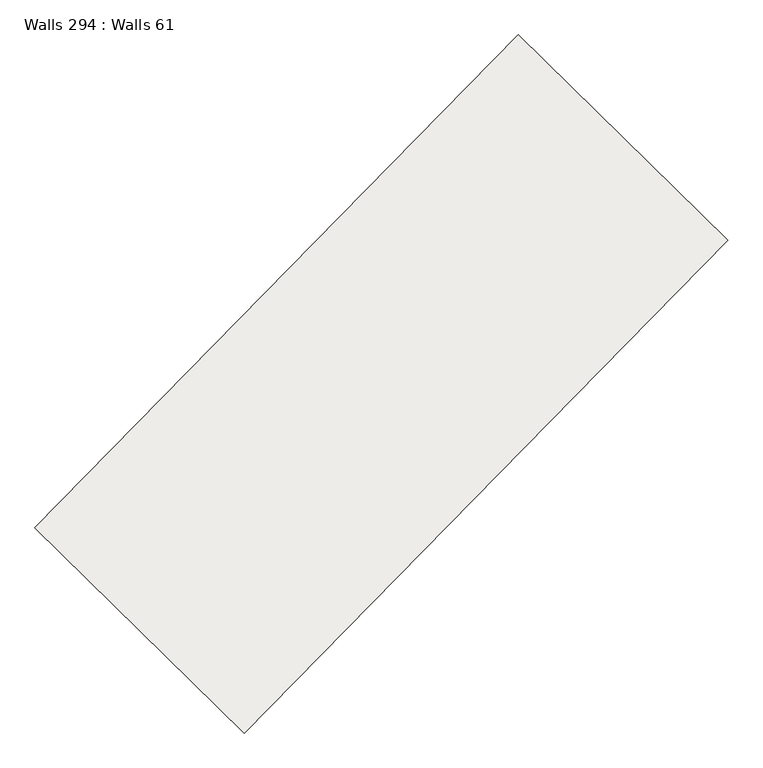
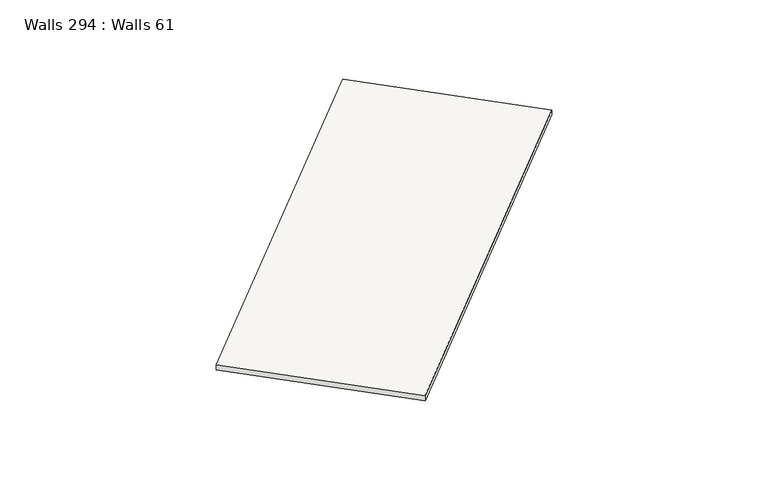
"""IFC4 building model written with IfcOpenShell, lengths in millimetres: slab geometry, Walls 294 : Walls 61."""

import ifcopenshell
import ifcopenshell.guid

model = None  # the IFC model being written
_history = None  # IfcOwnerHistory: only IFC2X3 demands one
_inside = {}  # id of a spatial element -> (the spatial element, [elements in it])
_under = {}  # id of a project, library or spatial element -> (it, [spatial elements below it])
_declared = {}  # id of a project -> (the project, [libraries it declares])
_typed = {}  # id of a type object -> (the type object, [elements of that type])
_made_of = {}  # id of a material, layer set ... -> (it, [elements and type objects made of it])


def new_model(schema):
    """Start an empty IFC model of exactly this schema.

    Asked for "IFC4X3", IfcOpenShell would pick the latest addendum, in which some entities
    have other attributes; the version numbers below select the first issue.
    IFC2X3 requires an IfcOwnerHistory on every rooted entity: one is made here for all.
    """
    global model, _history
    if schema == "IFC4X3":
        model = ifcopenshell.file(schema_version=(4, 3, 0, 0))
    else:
        model = ifcopenshell.file(schema=schema)
    _inside.clear()
    _under.clear()
    _declared.clear()
    _typed.clear()
    _made_of.clear()
    _history = None
    if model.schema == "IFC2X3":
        org = make("IfcOrganization", Name="unknown")
        user = make(
            "IfcPersonAndOrganization",
            ThePerson=make("IfcPerson", FamilyName="unknown"),
            TheOrganization=org,
        )
        app = make(
            "IfcApplication",
            ApplicationDeveloper=org,
            Version="unknown",
            ApplicationFullName="unknown",
            ApplicationIdentifier="unknown",
        )
        _history = make(
            "IfcOwnerHistory",
            OwningUser=user,
            OwningApplication=app,
            ChangeAction="ADDED",
            CreationDate=0,
        )
    return model


def make(cls, **values):
    """One entity of the class cls with the attributes given. An attribute that is None is left unset."""
    return model.create_entity(
        cls, **{name: value for name, value in values.items() if value is not None}
    )


def rooted(cls, **values):
    """An entity with a GlobalId (a new one), such as an element, a storey or a relation."""
    return make(cls, GlobalId=ifcopenshell.guid.new(), OwnerHistory=_history, **values)


def si_unit(unit_type, name, prefix=None):
    """IfcSIUnit, for example si_unit("LENGTHUNIT", "METRE", prefix="MILLI")."""
    return make("IfcSIUnit", UnitType=unit_type, Prefix=prefix, Name=name)


def assignment(units):
    """IfcUnitAssignment: the units of a project."""
    return None if units is None else make("IfcUnitAssignment", Units=units)


def point(xyz):
    """IfcCartesianPoint."""
    return None if xyz is None else make("IfcCartesianPoint", Coordinates=xyz)


def direction(xyz):
    """IfcDirection."""
    return None if xyz is None else make("IfcDirection", DirectionRatios=xyz)


def frame(location, z_axis=None, x_axis=None):
    """IfcAxis2Placement3D, a coordinate frame: its origin and axes. An axis left out is left unset."""
    return make(
        "IfcAxis2Placement3D",
        Location=point(location),
        Axis=direction(z_axis),
        RefDirection=direction(x_axis),
    )


def origin():
    """The frame at (0, 0, 0) with its axes left unset."""
    return frame((0.0, 0.0, 0.0))


def place(relative_to, where):
    """IfcLocalPlacement: puts the frame where relative to a parent placement (None: the world)."""
    return make(
        "IfcLocalPlacement", PlacementRelTo=relative_to, RelativePlacement=where
    )


def context(
    kind, dimensions, precision=None, world=None, true_north=None, identifier=None
):
    """IfcGeometricRepresentationContext, for example the 3D "Model" context."""
    return make(
        "IfcGeometricRepresentationContext",
        ContextIdentifier=identifier,
        ContextType=kind,
        CoordinateSpaceDimension=dimensions,
        Precision=precision,
        WorldCoordinateSystem=world,
        TrueNorth=true_north,
    )


def project(units=None, contexts=None):
    """IfcProject with its units and contexts."""
    return rooted(
        "IfcProject",
        Name="project",
        RepresentationContexts=contexts,
        UnitsInContext=assignment(units),
    )


def spatial(cls, under=None, at=None, **own):
    """A site, building, storey or space (cls), placed at a placement, below another one or the project."""
    s = rooted(cls, ObjectPlacement=at, **own)
    if under is not None:
        _under.setdefault(under.id(), (under, []))[1].append(s)
    return s


def polyline(points):
    """IfcPolyline through the points."""
    return make("IfcPolyline", Points=[point(p) for p in points])


def outline(outer, holes=None, kind="AREA"):
    """IfcArbitraryClosedProfileDef: a profile drawn as a closed curve; with holes, ...WithVoids."""
    if holes is None:
        return make("IfcArbitraryClosedProfileDef", ProfileType=kind, OuterCurve=outer)
    return make(
        "IfcArbitraryProfileDefWithVoids",
        ProfileType=kind,
        OuterCurve=outer,
        InnerCurves=holes,
    )


def extrude(swept, where, along, depth):
    """IfcExtrudedAreaSolid: the profile swept, set in the frame where, extruded along a direction by depth."""
    return make(
        "IfcExtrudedAreaSolid",
        SweptArea=swept,
        Position=where,
        ExtrudedDirection=direction(along),
        Depth=depth,
    )


def shape(context_of_items, identifier, shape_type, items):
    """IfcShapeRepresentation: the items that make up one representation, for example the "Body"."""
    return make(
        "IfcShapeRepresentation",
        ContextOfItems=context_of_items,
        RepresentationIdentifier=identifier,
        RepresentationType=shape_type,
        Items=items,
    )


def source(mapping_origin, context_of_items, identifier, shape_type, items):
    """IfcRepresentationMap: a shape defined once, which mapped items show again and again."""
    return make(
        "IfcRepresentationMap",
        MappingOrigin=mapping_origin,
        MappedRepresentation=shape(context_of_items, identifier, shape_type, items),
    )


def transform(
    local_origin,
    x_axis=None,
    y_axis=None,
    z_axis=None,
    scale=None,
    scale2=None,
    scale3=None,
    uniform=True,
):
    """IfcCartesianTransformationOperator3D, or its non-uniform kind. x_axis, y_axis, z_axis: its Axis1, 2, 3."""
    if uniform:
        return make(
            "IfcCartesianTransformationOperator3D",
            Axis1=direction(x_axis),
            Axis2=direction(y_axis),
            LocalOrigin=point(local_origin),
            Scale=scale,
            Axis3=direction(z_axis),
        )
    return make(
        "IfcCartesianTransformationOperator3DnonUniform",
        Axis1=direction(x_axis),
        Axis2=direction(y_axis),
        LocalOrigin=point(local_origin),
        Scale=scale,
        Axis3=direction(z_axis),
        Scale2=scale2,
        Scale3=scale3,
    )


def mapped(mapping_source, mapping_target):
    """IfcMappedItem: shows the shape of a source again, moved by a transform."""
    return make(
        "IfcMappedItem", MappingSource=mapping_source, MappingTarget=mapping_target
    )


def made_of(thing, what):
    """Note that an element or type object is made of a material, layer set ...; save() writes the relation."""
    if what is not None:
        _made_of.setdefault(what.id(), (what, []))[1].append(thing)
    return thing


def element(
    cls,
    number,
    at=None,
    inside=None,
    cuts=None,
    type_object=None,
    material=None,
    context=None,
    identifier="Body",
    shape_type=None,
    held_by="IfcProductDefinitionShape",
    body=None,
    shapes=None,
    **own,
):
    """One element of the class cls, such as IfcWall. Its Tag is "e" and its number.

    at: its placement. inside: the storey or other place that contains it. cuts: it is an
    opening in that element (IfcRelVoidsElement). A single representation is given by context,
    identifier, shape_type and body (its items); several are given by shapes. held_by: the class
    of the entity that holds the representations. save() writes the other relations.
    """
    e = rooted(cls, Tag="e%d" % number, ObjectPlacement=at, **own)
    if body is not None:
        shapes = [shape(context, identifier, shape_type, body)]
    if shapes is not None:
        e.Representation = make(held_by, Representations=shapes)
    if inside is not None:
        _inside.setdefault(inside.id(), (inside, []))[1].append(e)
    if cuts is not None:
        rooted(
            "IfcRelVoidsElement", RelatingBuildingElement=cuts, RelatedOpeningElement=e
        )
    if type_object is not None:
        _typed.setdefault(type_object.id(), (type_object, []))[1].append(e)
    return made_of(e, material)


def aggregate(whole, parts):
    """IfcRelAggregates: a whole, such as a stair, and the parts it consists of."""
    return rooted("IfcRelAggregates", RelatingObject=whole, RelatedObjects=parts)


def save(model, path):
    """Write the relations noted so far, then the file.

    IfcRelAggregates (storeys below a building ...), IfcRelContainedInSpatialStructure (elements
    in a storey), IfcRelDefinesByType, IfcRelAssociatesMaterial and IfcRelDeclares: one each for
    every whole, place, type object, material and project.
    """
    for whole, parts in _under.values():
        aggregate(whole, parts)
    for where, things in _inside.values():
        rooted(
            "IfcRelContainedInSpatialStructure",
            RelatedElements=things,
            RelatingStructure=where,
        )
    for kind, things in _typed.values():
        rooted("IfcRelDefinesByType", RelatedObjects=things, RelatingType=kind)
    for what, things in _made_of.values():
        rooted("IfcRelAssociatesMaterial", RelatedObjects=things, RelatingMaterial=what)
    for by, libraries in _declared.values():
        rooted("IfcRelDeclares", RelatingContext=by, RelatedDefinitions=libraries)
    model.write(path)


def walls_294_walls_61_85d195f7(model_context):
    return source(origin(), model_context, "Body", "SweptSolid", [
        extrude(outline(polyline([(-50.0, 0.0), (50.0, 0.0), (-40.0, -8700.0000009), (-140.0, -8700.0000009), (-50.0, 0.0)])), frame((-12137.4080498, -171713.1585165, 637870.0), z_axis=(-0.7137361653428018, 0.7004146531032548, 0.0), x_axis=(0.0, 0.0, 1.0)), (0.0, 0.0, 1.0), 3699.999995),
    ])


if __name__ == "__main__":
    model = new_model("IFC4")
    model_context = context("Model", 3, world=origin())
    ifc_project = project(units=[si_unit("LENGTHUNIT", "METRE", prefix="MILLI")], contexts=[model_context])
    site = spatial("IfcSite", under=ifc_project)
    building = spatial("IfcBuilding", under=site)
    placement = place(None, origin())
    walls_294_walls_61_shape = walls_294_walls_61_85d195f7(model_context)
    element("IfcSlab", 1, ObjectType="Walls 294 : Walls 61", at=placement, inside=building, context=model_context, shape_type="MappedRepresentation", body=[
        mapped(walls_294_walls_61_shape, transform((0.0, 0.0, 0.0), x_axis=(1.0, 0.0, 0.0), y_axis=(0.0, 1.0, 0.0), z_axis=(0.0, 0.0, 1.0))),
    ])
    save(model, "model.ifc")
